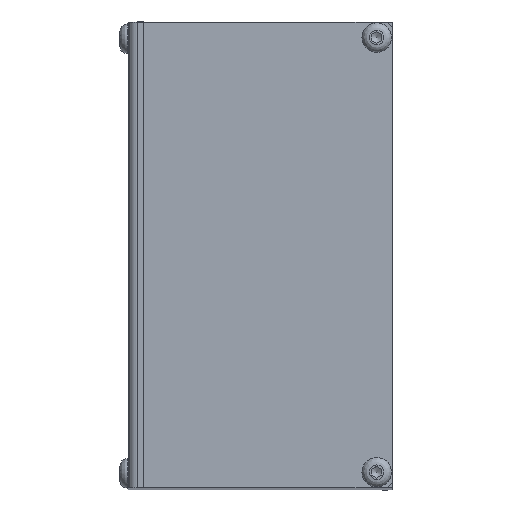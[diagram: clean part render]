
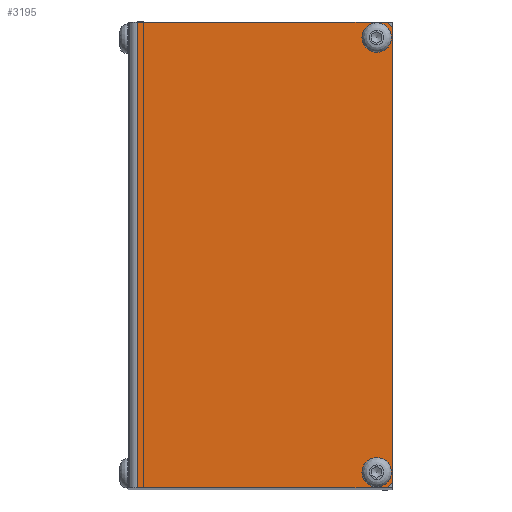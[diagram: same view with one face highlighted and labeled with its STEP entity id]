
A CAD part, top view. The second image highlights one B-rep face of the part: STEP entity #3195.
In plain terms, the highlighted planar face has unit normal (0, 0, 1).
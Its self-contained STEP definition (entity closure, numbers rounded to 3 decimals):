
#203=LINE('',#5186,#415);
#206=LINE('',#5192,#418);
#220=LINE('',#5224,#432);
#225=LINE('',#5238,#437);
#228=LINE('',#5246,#440);
#229=LINE('',#5248,#441);
#415=VECTOR('',#4181,1.414);
#418=VECTOR('',#4186,1.414);
#432=VECTOR('',#4222,48.2);
#437=VECTOR('',#4239,48.2);
#440=VECTOR('',#4252,90.);
#441=VECTOR('',#4255,88.);
#604=PLANE('',#3510);
#687=FACE_BOUND('',#1103,.T.);
#688=FACE_BOUND('',#1104,.T.);
#853=FACE_OUTER_BOUND('',#1102,.T.);
#1102=EDGE_LOOP('',(#2593,#2594,#2595,#2596,#2597,#2598));
#1103=EDGE_LOOP('',(#2599));
#1104=EDGE_LOOP('',(#2600));
#1221=CIRCLE('',#3341,2.85);
#1293=CIRCLE('',#3511,2.85);
#1385=VERTEX_POINT('',#4716);
#1525=VERTEX_POINT('',#5183);
#1526=VERTEX_POINT('',#5185);
#1527=VERTEX_POINT('',#5189);
#1528=VERTEX_POINT('',#5191);
#1535=VERTEX_POINT('',#5222);
#1538=VERTEX_POINT('',#5237);
#1539=VERTEX_POINT('',#5250);
#1682=EDGE_CURVE('',#1385,#1385,#1221,.T.);
#1874=EDGE_CURVE('',#1525,#1526,#203,.T.);
#1877=EDGE_CURVE('',#1527,#1528,#206,.T.);
#1896=EDGE_CURVE('',#1535,#1525,#220,.T.);
#1904=EDGE_CURVE('',#1528,#1538,#225,.T.);
#1909=EDGE_CURVE('',#1535,#1538,#228,.T.);
#1910=EDGE_CURVE('',#1526,#1527,#229,.T.);
#1911=EDGE_CURVE('',#1539,#1539,#1293,.T.);
#2593=ORIENTED_EDGE('',*,*,#1874,.F.);
#2594=ORIENTED_EDGE('',*,*,#1896,.F.);
#2595=ORIENTED_EDGE('',*,*,#1909,.T.);
#2596=ORIENTED_EDGE('',*,*,#1904,.F.);
#2597=ORIENTED_EDGE('',*,*,#1877,.F.);
#2598=ORIENTED_EDGE('',*,*,#1910,.F.);
#2599=ORIENTED_EDGE('',*,*,#1682,.T.);
#2600=ORIENTED_EDGE('',*,*,#1911,.T.);
#3195=ADVANCED_FACE('',(#853,#687,#688),#604,.F.);
#3341=AXIS2_PLACEMENT_3D('',#4717,#3774,#3775);
#3510=AXIS2_PLACEMENT_3D('',#5249,#4256,#4257);
#3511=AXIS2_PLACEMENT_3D('',#5251,#4258,#4259);
#3774=DIRECTION('center_axis',(0.,0.,
-1.));
#3775=DIRECTION('ref_axis',(1.,0.,0.));
#4181=DIRECTION('',(0.707,-0.707,0.));
#4186=DIRECTION('',(-0.707,-0.707,0.));
#4222=DIRECTION('',(1.,0.,0.));
#4239=DIRECTION('',(-1.,0.,0.));
#4252=DIRECTION('',(0.,-1.,0.));
#4255=DIRECTION('',(0.,-1.,0.));
#4256=DIRECTION('center_axis',(0.,0.,
-1.));
#4257=DIRECTION('ref_axis',(0.,-1.,0.));
#4258=DIRECTION('center_axis',(0.,0.,
-1.));
#4259=DIRECTION('ref_axis',(1.,0.,0.));
#4716=CARTESIAN_POINT('',(50.85,87.,250.));
#4717=CARTESIAN_POINT('Origin',(48.,87.,250.));
#5183=CARTESIAN_POINT('',(50.,90.,250.));
#5185=CARTESIAN_POINT('',(51.,89.,250.));
#5186=CARTESIAN_POINT('',(55.375,84.625,250.));
#5189=CARTESIAN_POINT('',(51.,1.,250.));
#5191=CARTESIAN_POINT('',(50.,0.,250.));
#5192=CARTESIAN_POINT('',(55.375,5.375,250.));
#5222=CARTESIAN_POINT('',(1.8,90.,250.));
#5224=CARTESIAN_POINT('',(0.,90.,250.));
#5237=CARTESIAN_POINT('',(1.8,0.,250.));
#5238=CARTESIAN_POINT('',(51.,0.,250.));
#5246=CARTESIAN_POINT('',(1.8,22.5,250.));
#5248=CARTESIAN_POINT('',(51.,90.,250.));
#5249=CARTESIAN_POINT('Origin',(25.5,45.,250.));
#5250=CARTESIAN_POINT('',(50.85,3.,250.));
#5251=CARTESIAN_POINT('Origin',(48.,3.,250.));
